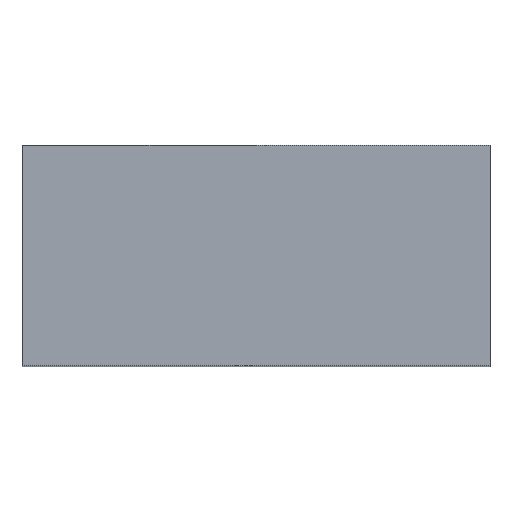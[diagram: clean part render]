
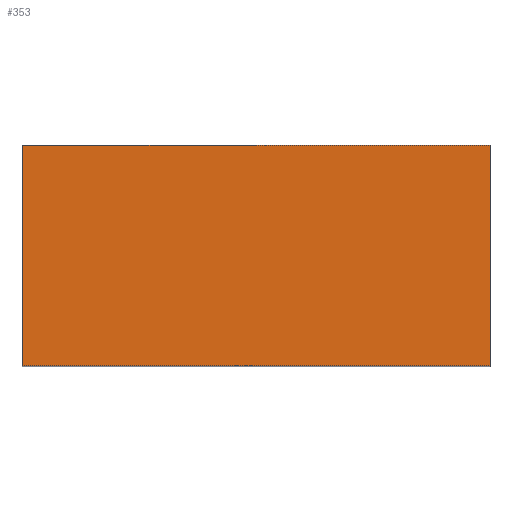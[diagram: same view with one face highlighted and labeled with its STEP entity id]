
A CAD part, top view. The second image highlights one B-rep face of the part: STEP entity #353.
In plain terms, the highlighted planar face has unit normal (0, 0, 1).
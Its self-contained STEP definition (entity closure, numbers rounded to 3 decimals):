
#39 = VERTEX_POINT('',#40);
#40 = CARTESIAN_POINT('',(-2.5,2.95,15.5));
#47 = PLANE('',#48);
#48 = AXIS2_PLACEMENT_3D('',#49,#50,#51);
#49 = CARTESIAN_POINT('',(-2.5,2.95,0.));
#50 = DIRECTION('',(0.,1.,0.));
#51 = DIRECTION('',(1.,0.,0.));
#59 = PLANE('',#60);
#60 = AXIS2_PLACEMENT_3D('',#61,#62,#63);
#61 = CARTESIAN_POINT('',(-2.5,-2.95,0.));
#62 = DIRECTION('',(-1.,0.,0.));
#63 = DIRECTION('',(0.,1.,0.));
#71 = EDGE_CURVE('',#39,#72,#74,.T.);
#72 = VERTEX_POINT('',#73);
#73 = CARTESIAN_POINT('',(10.,2.95,15.5));
#74 = SURFACE_CURVE('',#75,(#79,#86),.PCURVE_S1.);
#75 = LINE('',#76,#77);
#76 = CARTESIAN_POINT('',(-2.5,2.95,15.5));
#77 = VECTOR('',#78,1.);
#78 = DIRECTION('',(1.,0.,0.));
#79 = PCURVE('',#47,#80);
#80 = DEFINITIONAL_REPRESENTATION('',(#81),#85);
#81 = LINE('',#82,#83);
#82 = CARTESIAN_POINT('',(0.,-15.5));
#83 = VECTOR('',#84,1.);
#84 = DIRECTION('',(1.,0.));
#85 = ( GEOMETRIC_REPRESENTATION_CONTEXT(2) 
PARAMETRIC_REPRESENTATION_CONTEXT() REPRESENTATION_CONTEXT('2D SPACE',''
  ) );
#86 = PCURVE('',#87,#92);
#87 = PLANE('',#88);
#88 = AXIS2_PLACEMENT_3D('',#89,#90,#91);
#89 = CARTESIAN_POINT('',(3.75,0.,15.5));
#90 = DIRECTION('',(-0.,-0.,-1.));
#91 = DIRECTION('',(-1.,0.,0.));
#92 = DEFINITIONAL_REPRESENTATION('',(#93),#97);
#93 = LINE('',#94,#95);
#94 = CARTESIAN_POINT('',(6.25,2.95));
#95 = VECTOR('',#96,1.);
#96 = DIRECTION('',(-1.,0.));
#97 = ( GEOMETRIC_REPRESENTATION_CONTEXT(2) 
PARAMETRIC_REPRESENTATION_CONTEXT() REPRESENTATION_CONTEXT('2D SPACE',''
  ) );
#115 = PLANE('',#116);
#116 = AXIS2_PLACEMENT_3D('',#117,#118,#119);
#117 = CARTESIAN_POINT('',(10.,2.95,0.));
#118 = DIRECTION('',(1.,0.,-0.));
#119 = DIRECTION('',(0.,-1.,0.));
#157 = EDGE_CURVE('',#72,#158,#160,.T.);
#158 = VERTEX_POINT('',#159);
#159 = CARTESIAN_POINT('',(10.,-2.95,15.5));
#160 = SURFACE_CURVE('',#161,(#165,#172),.PCURVE_S1.);
#161 = LINE('',#162,#163);
#162 = CARTESIAN_POINT('',(10.,2.95,15.5));
#163 = VECTOR('',#164,1.);
#164 = DIRECTION('',(0.,-1.,0.));
#165 = PCURVE('',#115,#166);
#166 = DEFINITIONAL_REPRESENTATION('',(#167),#171);
#167 = LINE('',#168,#169);
#168 = CARTESIAN_POINT('',(0.,-15.5));
#169 = VECTOR('',#170,1.);
#170 = DIRECTION('',(1.,0.));
#171 = ( GEOMETRIC_REPRESENTATION_CONTEXT(2) 
PARAMETRIC_REPRESENTATION_CONTEXT() REPRESENTATION_CONTEXT('2D SPACE',''
  ) );
#172 = PCURVE('',#87,#173);
#173 = DEFINITIONAL_REPRESENTATION('',(#174),#178);
#174 = LINE('',#175,#176);
#175 = CARTESIAN_POINT('',(-6.25,2.95));
#176 = VECTOR('',#177,1.);
#177 = DIRECTION('',(0.,-1.));
#178 = ( GEOMETRIC_REPRESENTATION_CONTEXT(2) 
PARAMETRIC_REPRESENTATION_CONTEXT() REPRESENTATION_CONTEXT('2D SPACE',''
  ) );
#196 = PLANE('',#197);
#197 = AXIS2_PLACEMENT_3D('',#198,#199,#200);
#198 = CARTESIAN_POINT('',(10.,-2.95,0.));
#199 = DIRECTION('',(0.,-1.,0.));
#200 = DIRECTION('',(-1.,0.,0.));
#233 = EDGE_CURVE('',#158,#234,#236,.T.);
#234 = VERTEX_POINT('',#235);
#235 = CARTESIAN_POINT('',(-2.5,-2.95,15.5));
#236 = SURFACE_CURVE('',#237,(#241,#248),.PCURVE_S1.);
#237 = LINE('',#238,#239);
#238 = CARTESIAN_POINT('',(10.,-2.95,15.5));
#239 = VECTOR('',#240,1.);
#240 = DIRECTION('',(-1.,0.,0.));
#241 = PCURVE('',#196,#242);
#242 = DEFINITIONAL_REPRESENTATION('',(#243),#247);
#243 = LINE('',#244,#245);
#244 = CARTESIAN_POINT('',(0.,-15.5));
#245 = VECTOR('',#246,1.);
#246 = DIRECTION('',(1.,0.));
#247 = ( GEOMETRIC_REPRESENTATION_CONTEXT(2) 
PARAMETRIC_REPRESENTATION_CONTEXT() REPRESENTATION_CONTEXT('2D SPACE',''
  ) );
#248 = PCURVE('',#87,#249);
#249 = DEFINITIONAL_REPRESENTATION('',(#250),#254);
#250 = LINE('',#251,#252);
#251 = CARTESIAN_POINT('',(-6.25,-2.95));
#252 = VECTOR('',#253,1.);
#253 = DIRECTION('',(1.,0.));
#254 = ( GEOMETRIC_REPRESENTATION_CONTEXT(2) 
PARAMETRIC_REPRESENTATION_CONTEXT() REPRESENTATION_CONTEXT('2D SPACE',''
  ) );
#304 = EDGE_CURVE('',#234,#39,#305,.T.);
#305 = SURFACE_CURVE('',#306,(#310,#317),.PCURVE_S1.);
#306 = LINE('',#307,#308);
#307 = CARTESIAN_POINT('',(-2.5,-2.95,15.5));
#308 = VECTOR('',#309,1.);
#309 = DIRECTION('',(0.,1.,0.));
#310 = PCURVE('',#59,#311);
#311 = DEFINITIONAL_REPRESENTATION('',(#312),#316);
#312 = LINE('',#313,#314);
#313 = CARTESIAN_POINT('',(0.,-15.5));
#314 = VECTOR('',#315,1.);
#315 = DIRECTION('',(1.,0.));
#316 = ( GEOMETRIC_REPRESENTATION_CONTEXT(2) 
PARAMETRIC_REPRESENTATION_CONTEXT() REPRESENTATION_CONTEXT('2D SPACE',''
  ) );
#317 = PCURVE('',#87,#318);
#318 = DEFINITIONAL_REPRESENTATION('',(#319),#323);
#319 = LINE('',#320,#321);
#320 = CARTESIAN_POINT('',(6.25,-2.95));
#321 = VECTOR('',#322,1.);
#322 = DIRECTION('',(0.,1.));
#323 = ( GEOMETRIC_REPRESENTATION_CONTEXT(2) 
PARAMETRIC_REPRESENTATION_CONTEXT() REPRESENTATION_CONTEXT('2D SPACE',''
  ) );
#353 = ADVANCED_FACE('',(#354),#87,.F.);
#354 = FACE_BOUND('',#355,.F.);
#355 = EDGE_LOOP('',(#356,#357,#358,#359));
#356 = ORIENTED_EDGE('',*,*,#71,.T.);
#357 = ORIENTED_EDGE('',*,*,#157,.T.);
#358 = ORIENTED_EDGE('',*,*,#233,.T.);
#359 = ORIENTED_EDGE('',*,*,#304,.T.);
